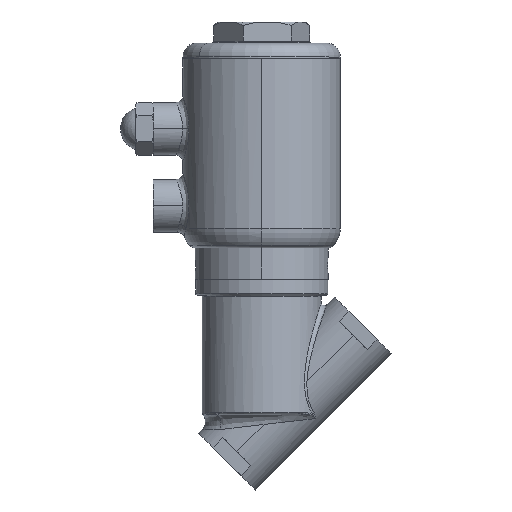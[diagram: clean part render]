
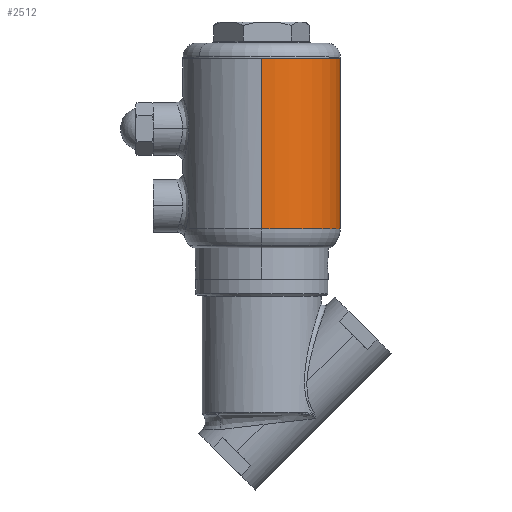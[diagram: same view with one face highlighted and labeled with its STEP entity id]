
A CAD part, top view. The second image highlights one B-rep face of the part: STEP entity #2512.
In plain terms, the highlighted cylindrical face has radius 22.5 mm (diameter 45 mm), a partial arc.
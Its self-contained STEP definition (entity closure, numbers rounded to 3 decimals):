
#375 = ORIENTED_EDGE ( 'NONE', *, *, #828, .T. ) ;
#591 = DIRECTION ( 'NONE',  ( 0., 1., 0. ) ) ;
#789 = AXIS2_PLACEMENT_3D ( 'NONE', #3770, #6320, #6370 ) ;
#828 = EDGE_CURVE ( 'NONE', #2573, #2201, #3557, .T. ) ;
#851 = DIRECTION ( 'NONE',  ( 0., -1., 0. ) ) ;
#920 = EDGE_CURVE ( 'NONE', #3572, #2201, #2619, .T. ) ;
#1030 = EDGE_CURVE ( 'NONE', #2573, #6389, #2884, .T. ) ;
#1097 = EDGE_CURVE ( 'NONE', #6389, #3572, #1154, .T. ) ;
#1108 = VECTOR ( 'NONE', #2061, 1000. ) ;
#1154 = LINE ( 'NONE', #4523, #1108 ) ;
#1361 = CARTESIAN_POINT ( 'NONE',  ( 0., -10.787, -22.5 ) ) ;
#1576 = FACE_OUTER_BOUND ( 'NONE', #6031, .T. ) ;
#2061 = DIRECTION ( 'NONE',  ( 0., -1., 0. ) ) ;
#2201 = VERTEX_POINT ( 'NONE', #4426 ) ;
#2287 = CARTESIAN_POINT ( 'NONE',  ( 0., 37.809, -22.5 ) ) ;
#2512 = ADVANCED_FACE ( 'NONE', ( #1576 ), #4030, .T. ) ;
#2573 = VERTEX_POINT ( 'NONE', #2917 ) ;
#2619 = CIRCLE ( 'NONE', #4846, 22.5 ) ;
#2884 = CIRCLE ( 'NONE', #5873, 22.5 ) ;
#2917 = CARTESIAN_POINT ( 'NONE',  ( 0., 37.809, 22.5 ) ) ;
#3119 = ORIENTED_EDGE ( 'NONE', *, *, #920, .F. ) ;
#3506 = CARTESIAN_POINT ( 'NONE',  ( 0., 37.809, 0. ) ) ;
#3557 = LINE ( 'NONE', #3855, #3630 ) ;
#3572 = VERTEX_POINT ( 'NONE', #1361 ) ;
#3630 = VECTOR ( 'NONE', #4849, 1000. ) ;
#3756 = CARTESIAN_POINT ( 'NONE',  ( 0., -10.787, 0. ) ) ;
#3770 = CARTESIAN_POINT ( 'NONE',  ( 0., 37.809, 0. ) ) ;
#3855 = CARTESIAN_POINT ( 'NONE',  ( 0., 37.809, 22.5 ) ) ;
#3985 = DIRECTION ( 'NONE',  ( 0., 0., 1. ) ) ;
#4030 = CYLINDRICAL_SURFACE ( 'NONE', #789, 22.5 ) ;
#4262 = DIRECTION ( 'NONE',  ( 0., 0., 1. ) ) ;
#4426 = CARTESIAN_POINT ( 'NONE',  ( 0., -10.787, 22.5 ) ) ;
#4523 = CARTESIAN_POINT ( 'NONE',  ( 0., 37.809, -22.5 ) ) ;
#4846 = AXIS2_PLACEMENT_3D ( 'NONE', #3756, #851, #4262 ) ;
#4849 = DIRECTION ( 'NONE',  ( 0., -1., 0. ) ) ;
#5873 = AXIS2_PLACEMENT_3D ( 'NONE', #3506, #591, #3985 ) ;
#6031 = EDGE_LOOP ( 'NONE', ( #6113, #375, #3119, #6158 ) ) ;
#6113 = ORIENTED_EDGE ( 'NONE', *, *, #1030, .F. ) ;
#6158 = ORIENTED_EDGE ( 'NONE', *, *, #1097, .F. ) ;
#6320 = DIRECTION ( 'NONE',  ( 0., -1., 0. ) ) ;
#6370 = DIRECTION ( 'NONE',  ( 0., 0., -1. ) ) ;
#6389 = VERTEX_POINT ( 'NONE', #2287 ) ;
